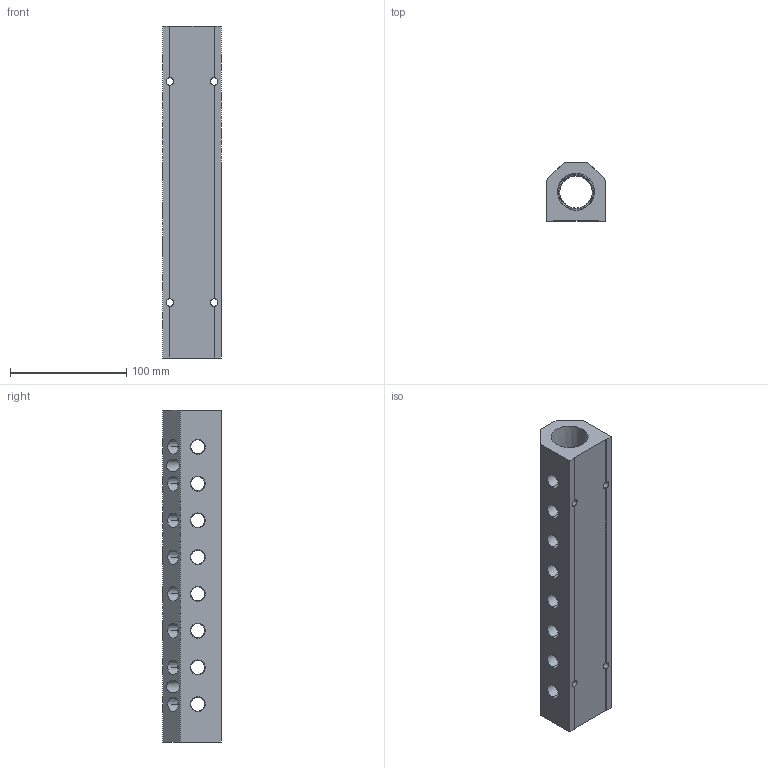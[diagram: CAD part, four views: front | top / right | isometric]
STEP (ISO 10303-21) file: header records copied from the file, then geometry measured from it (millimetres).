
FILE_DESCRIPTION (( 'STEP AP214' ), '1' );
FILE_NAME ('ALM8ABCDE-N4N16-286B.STEP', '2023-11-02T06:38:46', ( '' ), ( '' ), 'SwSTEP 2.0', 'SolidWorks 2020', '' );
FILE_SCHEMA (( 'AUTOMOTIVE_DESIGN' ));
Length unit declared in the file: millimetre
Products named in the file (1): ALM8ABCDE-N4N16-286B
Bounding box: 50.8 x 50.8 x 286 mm (x, y, z)
Volume: 414410.7 mm3; surface area: 94786.7 mm2
Topology: 1 solids, 1 shells, 430 faces, 1190 edges, 788 vertices
Faces by surface type: plane 228, bspline 92, cone 88, cylinder 22
Entity records: 26389 total; most frequent: CARTESIAN_POINT 11933, ORIENTED_EDGE 2380, DIRECTION 1680, EDGE_CURVE 1190, VERTEX_POINT 788, LINE 754, VECTOR 754, EDGE_LOOP 546
